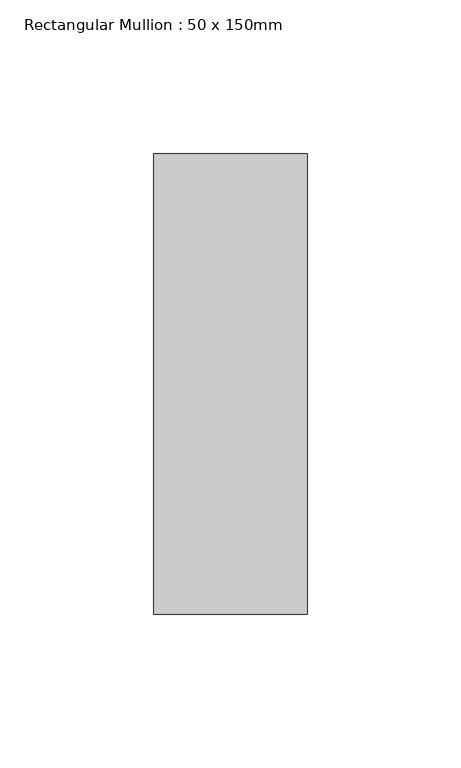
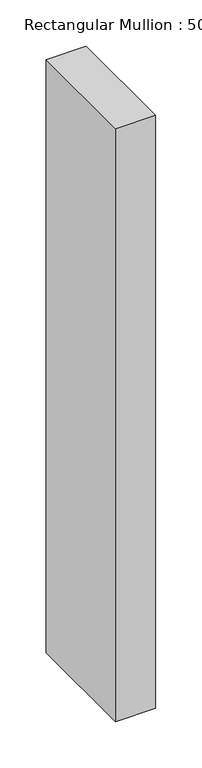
"""IFC4 building model written with IfcOpenShell, lengths in millimetres: member geometry, Rectangular Mullion : 50 x 150mm."""

from ifc_helpers import new_model, si_unit, frame, origin, place, context, project, spatial, polyline, outline, extrude, source, transform, mapped, element, save


def rectangular_mullion_50_x_150mm_7622f7aa(model_context):
    return source(origin(), model_context, "Body", "SweptSolid", [
        extrude(outline(polyline([(0.0, 75.0), (0.0, -75.0), (-50.0, -75.0), (-50.0, 75.0), (0.0, 75.0)])), frame((0.0, 0.0, -781.2500002), z_axis=(0.0, 0.0, 1.0), x_axis=(1.0, 0.0, 0.0)), (0.0, 0.0, 1.0), 781.2500002),
    ])


if __name__ == "__main__":
    model = new_model("IFC4")
    model_context = context("Model", 3, world=origin())
    ifc_project = project(units=[si_unit("LENGTHUNIT", "METRE", prefix="MILLI")], contexts=[model_context])
    site = spatial("IfcSite", under=ifc_project)
    building = spatial("IfcBuilding", under=site)
    placement = place(None, origin())
    rectangular_mullion_50_x_150mm_shape = rectangular_mullion_50_x_150mm_7622f7aa(model_context)
    element("IfcMember", 1, ObjectType="Rectangular Mullion : 50 x 150mm", at=placement, inside=building, context=model_context, shape_type="MappedRepresentation", body=[
        mapped(rectangular_mullion_50_x_150mm_shape, transform((0.0, 0.0, 0.0), x_axis=(1.0, 0.0, 0.0), y_axis=(0.0, 1.0, 0.0), z_axis=(0.0, 0.0, 1.0))),
    ])
    save(model, "model.ifc")
